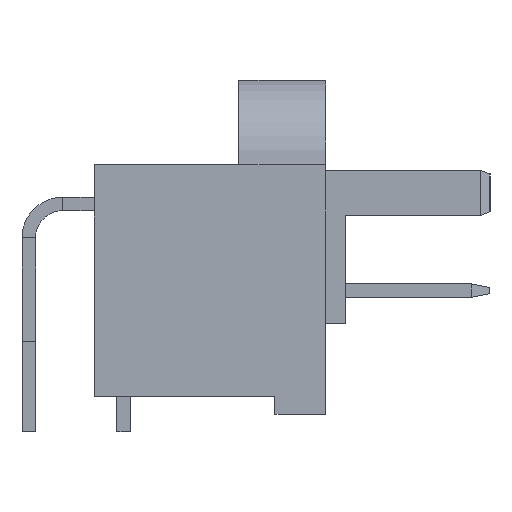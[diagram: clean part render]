
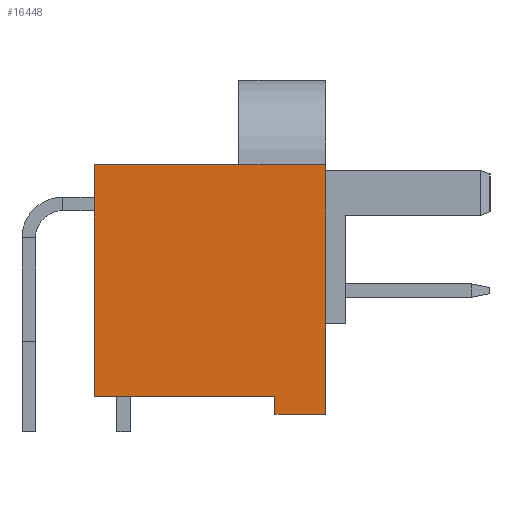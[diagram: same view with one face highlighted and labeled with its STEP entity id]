
A CAD part, left-side view. The second image highlights one B-rep face of the part: STEP entity #16448.
In plain terms, the highlighted planar face has unit normal (-1, 0, 0).
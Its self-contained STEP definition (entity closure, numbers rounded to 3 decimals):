
#689=PLANE('',#17467);
#1231=FACE_OUTER_BOUND('',#2241,.T.);
#2241=EDGE_LOOP('',(#12240,#12241,#12242,#12243,#12244,#12245,#12246));
#4104=LINE('',#22789,#5711);
#4406=LINE('',#28938,#6013);
#4418=LINE('',#29000,#6025);
#4422=LINE('',#29009,#6029);
#4423=LINE('',#29011,#6030);
#4424=LINE('',#29012,#6031);
#4425=LINE('',#29013,#6032);
#5711=VECTOR('',#18215,1000.);
#6013=VECTOR('',#18519,1000.);
#6025=VECTOR('',#18545,1000.);
#6029=VECTOR('',#18553,1000.);
#6030=VECTOR('',#18554,1000.);
#6031=VECTOR('',#18555,1000.);
#6032=VECTOR('',#18556,1000.);
#7355=VERTEX_POINT('',#22782);
#7358=VERTEX_POINT('',#22787);
#7985=VERTEX_POINT('',#28936);
#8001=VERTEX_POINT('',#28997);
#8002=VERTEX_POINT('',#28999);
#8005=VERTEX_POINT('',#29008);
#8006=VERTEX_POINT('',#29010);
#9052=EDGE_CURVE('',#7355,#7358,#4104,.T.);
#9679=EDGE_CURVE('',#7358,#7985,#4406,.T.);
#9697=EDGE_CURVE('',#8001,#8002,#4418,.T.);
#9702=EDGE_CURVE('',#8005,#7985,#4422,.T.);
#9703=EDGE_CURVE('',#8006,#8005,#4423,.T.);
#9704=EDGE_CURVE('',#8006,#8002,#4424,.T.);
#9705=EDGE_CURVE('',#8001,#7355,#4425,.T.);
#12240=ORIENTED_EDGE('',*,*,#9702,.F.);
#12241=ORIENTED_EDGE('',*,*,#9703,.F.);
#12242=ORIENTED_EDGE('',*,*,#9704,.T.);
#12243=ORIENTED_EDGE('',*,*,#9697,.F.);
#12244=ORIENTED_EDGE('',*,*,#9705,.T.);
#12245=ORIENTED_EDGE('',*,*,#9052,.T.);
#12246=ORIENTED_EDGE('',*,*,#9679,.T.);
#16448=ADVANCED_FACE('',(#1231),#689,.T.);
#17467=AXIS2_PLACEMENT_3D('',#29007,#18551,#18552);
#18215=DIRECTION('',(0.,0.,-1.));
#18519=DIRECTION('',(0.,-1.,0.));
#18545=DIRECTION('',(0.,-1.,0.));
#18551=DIRECTION('center_axis',(-1.,0.,0.));
#18552=DIRECTION('ref_axis',(0.,-1.,0.));
#18553=DIRECTION('',(0.,0.,-1.));
#18554=DIRECTION('',(0.,1.,0.));
#18555=DIRECTION('',(0.,0.,1.));
#18556=DIRECTION('',(0.,0.,-1.));
#22782=CARTESIAN_POINT('',(-60.,4.55,-4.8));
#22787=CARTESIAN_POINT('',(-60.,4.55,-12.8));
#22789=CARTESIAN_POINT('',(-60.,4.55,-12.8));
#28936=CARTESIAN_POINT('',(-60.,-8.25,-12.8));
#28938=CARTESIAN_POINT('',(-60.,9.25,-12.8));
#28997=CARTESIAN_POINT('',(-60.,4.55,0.));
#28999=CARTESIAN_POINT('',(-60.,-9.25,0.));
#29000=CARTESIAN_POINT('',(-60.,9.25,0.));
#29007=CARTESIAN_POINT('Origin',(-60.,9.25,-12.8));
#29008=CARTESIAN_POINT('',(-60.,-8.25,-2.8));
#29009=CARTESIAN_POINT('',(-60.,-8.25,115.204));
#29010=CARTESIAN_POINT('',(-60.,-9.25,-2.8));
#29011=CARTESIAN_POINT('',(-60.,-9.25,-2.8));
#29012=CARTESIAN_POINT('',(-60.,-9.25,-12.8));
#29013=CARTESIAN_POINT('',(-60.,4.55,-12.8));
